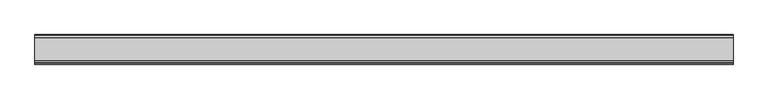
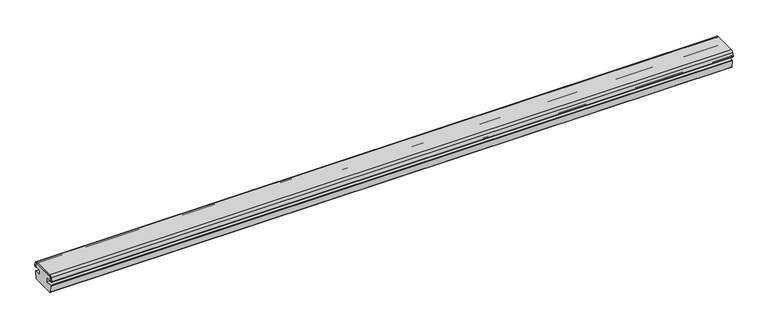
"""IFC4 building model written with IfcOpenShell, lengths in millimetres: proxy geometry, Weiku - Montante - Divisor fixo 02.2.01.041 : Weiku - Montante - Divisor fixo 02.2.01.041."""

from ifc_helpers import new_model, si_unit, point, frame, frame_2d, origin, place, context, project, spatial, polyline, circle_curve, trimmed, segment, composite_curve, outline, extrude, source, transform, mapped, element, save


def generic_models_b32debe0(model_context):
    return source(origin(), model_context, "Body", "SweptSolid", [
        extrude(outline(composite_curve([segment(trimmed(circle_curve(frame_2d((-33.0007245, 47.0)), 3.0), [point((-33.0007245, 50.0))], [point((-35.898502, 47.7764571))], True, "CARTESIAN"), True, "CONTINUOUS"), segment(polyline([(-35.898502, 47.7764571), (-38.4496907, 38.2552914)]), True, "CONTINUOUS"), segment(trimmed(circle_curve(frame_2d((-37.8701352, 38.1)), 0.6), [point((-38.4496907, 38.2552914))], [point((-37.8701352, 37.5))], True, "CARTESIAN"), True, "CONTINUOUS"), segment(polyline([(-37.8701352, 37.5), (-35.6935072, 37.5), (-35.6935072, 35.5), (-39.6935072, 35.5)]), True, "CONTINUOUS"), segment(trimmed(circle_curve(frame_2d((-39.6935072, 38.5)), 3.0), [point((-39.6935072, 35.5))], [point((-42.6544744, 38.0176381))], False, "CARTESIAN"), True, "CONTINUOUS"), segment(polyline([(-42.6544744, 38.0176381), (-39.7622053, 48.8117333)]), True, "CONTINUOUS"), segment(trimmed(circle_curve(frame_2d((-33.0007245, 47.0)), 7.0), [point((-39.7622053, 48.8117333))], [point((-33.0007245, 54.0))], False, "CARTESIAN"), True, "CONTINUOUS"), segment(polyline([(-33.0007245, 54.0), (33.0007245, 54.0)]), True, "CONTINUOUS"), segment(trimmed(circle_curve(frame_2d((33.0007245, 47.0)), 7.0), [point((33.0007245, 54.0))], [point((39.7622053, 48.8117333))], False, "CARTESIAN"), True, "CONTINUOUS"), segment(polyline([(39.7622053, 48.8117333), (42.3171749, 39.2764571)]), True, "CONTINUOUS"), segment(trimmed(circle_curve(frame_2d((39.4193974, 38.5)), 3.0), [point((42.3171749, 39.2764571))], [point((39.4193974, 35.5))], False, "CARTESIAN"), True, "CONTINUOUS"), segment(polyline([(39.4193974, 35.5), (35.6935072, 35.5), (35.6935072, 37.5), (37.8701352, 37.5)]), True, "CONTINUOUS"), segment(trimmed(circle_curve(frame_2d((37.8701352, 38.1)), 0.6), [point((37.8701352, 37.5))], [point((38.4496907, 38.2552914))], True, "CARTESIAN"), True, "CONTINUOUS"), segment(polyline([(38.4496907, 38.2552914), (35.898502, 47.7764571)]), True, "CONTINUOUS"), segment(trimmed(circle_curve(frame_2d((33.0007245, 47.0)), 3.0), [point((35.898502, 47.7764571))], [point((33.0007245, 50.0))], True, "CARTESIAN"), True, "CONTINUOUS"), segment(polyline([(33.0007245, 50.0), (-33.0007245, 50.0)]), True, "CONTINUOUS")], self_intersect=False)), frame((-1003.5, 0.0, 0.0), z_axis=(1.0, 0.0, 0.0), x_axis=(0.0, 1.0, 0.0)), (0.0, 0.0, 1.0), 2007.0),
        extrude(outline(composite_curve([segment(polyline([(-33.0007245, 50.0), (33.0007245, 50.0)]), True, "CONTINUOUS"), segment(trimmed(circle_curve(frame_2d((33.0007245, 47.0)), 3.0), [point((33.0007245, 50.0))], [point((35.898502, 47.7764571))], False, "CARTESIAN"), True, "CONTINUOUS"), segment(polyline([(35.898502, 47.7764571), (38.4496907, 38.2552914)]), True, "CONTINUOUS"), segment(trimmed(circle_curve(frame_2d((37.8701352, 38.1)), 0.6), [point((38.4496907, 38.2552914))], [point((37.8701352, 37.5))], False, "CARTESIAN"), True, "CONTINUOUS"), segment(polyline([(37.8701352, 37.5), (17.5004577, 37.5), (17.5004577, 23.5), (37.5139562, 23.5)]), True, "CONTINUOUS"), segment(trimmed(circle_curve(frame_2d((37.5139562, 22.5)), 1.0), [point((37.5139562, 23.5))], [point((38.5006041, 22.3371317))], False, "CARTESIAN"), True, "CONTINUOUS"), segment(polyline([(38.5006041, 22.3371317), (34.9515483, 0.8371317)]), True, "CONTINUOUS"), segment(trimmed(circle_curve(frame_2d((33.9649005, 1.0)), 1.0), [point((34.9515483, 0.8371317))], [point((33.9649005, 0.0))], False, "CARTESIAN"), True, "CONTINUOUS"), segment(polyline([(33.9649005, 0.0), (-33.9649005, 0.0)]), True, "CONTINUOUS"), segment(trimmed(circle_curve(frame_2d((-33.9649005, 1.0)), 1.0), [point((-33.9649005, 0.0))], [point((-34.9515483, 0.8371317))], False, "CARTESIAN"), True, "CONTINUOUS"), segment(polyline([(-34.9515483, 0.8371317), (-38.5006041, 22.3371317)]), True, "CONTINUOUS"), segment(trimmed(circle_curve(frame_2d((-37.5139562, 22.5)), 1.0), [point((-38.5006041, 22.3371317))], [point((-37.5139562, 23.5))], False, "CARTESIAN"), True, "CONTINUOUS"), segment(polyline([(-37.5139562, 23.5), (-17.5004577, 23.5), (-17.5004577, 37.5), (-37.8701352, 37.5)]), True, "CONTINUOUS"), segment(trimmed(circle_curve(frame_2d((-37.8701352, 38.1)), 0.6), [point((-37.8701352, 37.5))], [point((-38.4496907, 38.2552914))], False, "CARTESIAN"), True, "CONTINUOUS"), segment(polyline([(-38.4496907, 38.2552914), (-35.898502, 47.7764571)]), True, "CONTINUOUS"), segment(trimmed(circle_curve(frame_2d((-33.0007245, 47.0)), 3.0), [point((-35.898502, 47.7764571))], [point((-33.0007245, 50.0))], False, "CARTESIAN"), True, "CONTINUOUS")], self_intersect=False)), frame((-1003.5, 0.0, 0.0), z_axis=(1.0, 0.0, 0.0), x_axis=(0.0, 1.0, 0.0)), (0.0, 0.0, 1.0), 2007.0),
    ])


if __name__ == "__main__":
    model = new_model("IFC4")
    model_context = context("Model", 3, world=origin())
    ifc_project = project(units=[si_unit("LENGTHUNIT", "METRE", prefix="MILLI")], contexts=[model_context])
    site = spatial("IfcSite", under=ifc_project)
    building = spatial("IfcBuilding", under=site)
    placement = place(None, origin())
    generic_models_shape = generic_models_b32debe0(model_context)
    element("IfcBuildingElementProxy", 1, Name="Weiku - Montante - Divisor fixo 02.2.01.041 : Weiku - Montante - Divisor fixo 02.2.01.041", ObjectType="Weiku - Montante - Divisor fixo 02.2.01.041 : Weiku - Montante - Divisor fixo 02.2.01.041", at=placement, inside=building, context=model_context, shape_type="MappedRepresentation", body=[
        mapped(generic_models_shape, transform((0.0, 0.0, 0.0), x_axis=(1.0, 0.0, 0.0), y_axis=(0.0, 1.0, 0.0), z_axis=(0.0, 0.0, 1.0))),
    ])
    save(model, "model.ifc")
